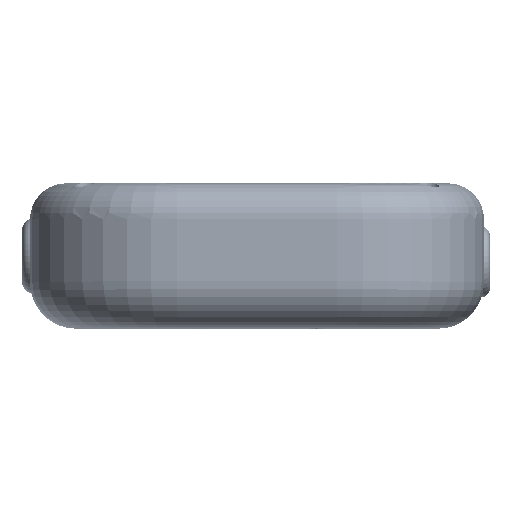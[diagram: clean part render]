
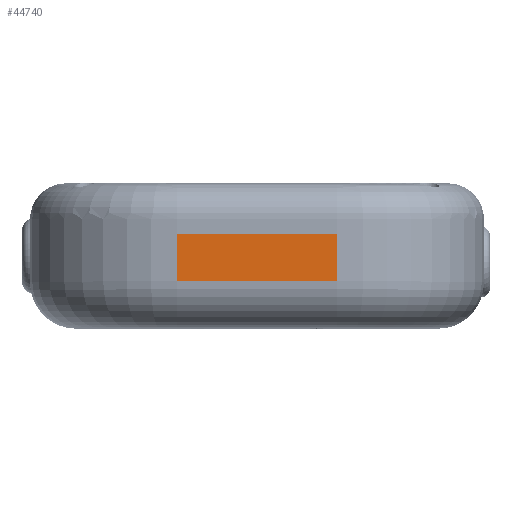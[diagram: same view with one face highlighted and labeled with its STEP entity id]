
A CAD part, top view. The second image highlights one B-rep face of the part: STEP entity #44740.
In plain terms, the highlighted planar face has unit normal (0, 0, 1).
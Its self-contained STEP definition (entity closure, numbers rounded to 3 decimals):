
#40124 = CYLINDRICAL_SURFACE('',#40125,9.2);
#40125 = AXIS2_PLACEMENT_3D('',#40126,#40127,#40128);
#40126 = CARTESIAN_POINT('',(16.,-5.2,67.));
#40127 = DIRECTION('',(-1.,-0.,-0.));
#40128 = DIRECTION('',(0.,-1.,0.));
#40701 = PLANE('',#40702);
#40702 = AXIS2_PLACEMENT_3D('',#40703,#40704,#40705);
#40703 = CARTESIAN_POINT('',(0.,4.2,0.));
#40704 = DIRECTION('',(0.,1.,0.));
#40705 = DIRECTION('',(0.,-0.,1.));
#40781 = CYLINDRICAL_SURFACE('',#40782,29.2);
#40782 = AXIS2_PLACEMENT_3D('',#40783,#40784,#40785);
#40783 = CARTESIAN_POINT('',(-16.,-14.4,47.));
#40784 = DIRECTION('',(0.,1.,0.));
#40785 = DIRECTION('',(-1.,0.,0.));
#40797 = VERTEX_POINT('',#40798);
#40798 = CARTESIAN_POINT('',(-16.,-5.2,76.2));
#42668 = VERTEX_POINT('',#42669);
#42669 = CARTESIAN_POINT('',(16.,-5.2,76.2));
#42684 = CYLINDRICAL_SURFACE('',#42685,29.2);
#42685 = AXIS2_PLACEMENT_3D('',#42686,#42687,#42688);
#42686 = CARTESIAN_POINT('',(16.,-14.4,47.));
#42687 = DIRECTION('',(0.,1.,0.));
#42688 = DIRECTION('',(1.,0.,-0.));
#42722 = EDGE_CURVE('',#42668,#40797,#42723,.T.);
#42723 = SURFACE_CURVE('',#42724,(#42728,#42735),.PCURVE_S1.);
#42724 = LINE('',#42725,#42726);
#42725 = CARTESIAN_POINT('',(16.,-5.2,76.2));
#42726 = VECTOR('',#42727,1.);
#42727 = DIRECTION('',(-1.,-0.,-0.));
#42728 = PCURVE('',#40124,#42729);
#42729 = DEFINITIONAL_REPRESENTATION('',(#42730),#42734);
#42730 = LINE('',#42731,#42732);
#42731 = CARTESIAN_POINT('',(1.571,0.));
#42732 = VECTOR('',#42733,1.);
#42733 = DIRECTION('',(0.,1.));
#42734 = ( GEOMETRIC_REPRESENTATION_CONTEXT(2) 
PARAMETRIC_REPRESENTATION_CONTEXT() REPRESENTATION_CONTEXT('2D SPACE',''
  ) );
#42735 = PCURVE('',#42736,#42741);
#42736 = PLANE('',#42737);
#42737 = AXIS2_PLACEMENT_3D('',#42738,#42739,#42740);
#42738 = CARTESIAN_POINT('',(-45.2,-14.4,76.2));
#42739 = DIRECTION('',(0.,0.,1.));
#42740 = DIRECTION('',(1.,0.,-0.));
#42741 = DEFINITIONAL_REPRESENTATION('',(#42742),#42746);
#42742 = LINE('',#42743,#42744);
#42743 = CARTESIAN_POINT('',(61.2,9.2));
#42744 = VECTOR('',#42745,1.);
#42745 = DIRECTION('',(-1.,0.));
#42746 = ( GEOMETRIC_REPRESENTATION_CONTEXT(2) 
PARAMETRIC_REPRESENTATION_CONTEXT() REPRESENTATION_CONTEXT('2D SPACE',''
  ) );
#43135 = VERTEX_POINT('',#43136);
#43136 = CARTESIAN_POINT('',(-16.,4.2,76.2));
#43158 = EDGE_CURVE('',#43159,#43135,#43161,.T.);
#43159 = VERTEX_POINT('',#43160);
#43160 = CARTESIAN_POINT('',(16.,4.2,76.2));
#43161 = SURFACE_CURVE('',#43162,(#43166,#43173),.PCURVE_S1.);
#43162 = LINE('',#43163,#43164);
#43163 = CARTESIAN_POINT('',(-22.6,4.2,76.2));
#43164 = VECTOR('',#43165,1.);
#43165 = DIRECTION('',(-1.,0.,0.));
#43166 = PCURVE('',#40701,#43167);
#43167 = DEFINITIONAL_REPRESENTATION('',(#43168),#43172);
#43168 = LINE('',#43169,#43170);
#43169 = CARTESIAN_POINT('',(76.2,-22.6));
#43170 = VECTOR('',#43171,1.);
#43171 = DIRECTION('',(0.,-1.));
#43172 = ( GEOMETRIC_REPRESENTATION_CONTEXT(2) 
PARAMETRIC_REPRESENTATION_CONTEXT() REPRESENTATION_CONTEXT('2D SPACE',''
  ) );
#43173 = PCURVE('',#42736,#43174);
#43174 = DEFINITIONAL_REPRESENTATION('',(#43175),#43179);
#43175 = LINE('',#43176,#43177);
#43176 = CARTESIAN_POINT('',(22.6,18.6));
#43177 = VECTOR('',#43178,1.);
#43178 = DIRECTION('',(-1.,0.));
#43179 = ( GEOMETRIC_REPRESENTATION_CONTEXT(2) 
PARAMETRIC_REPRESENTATION_CONTEXT() REPRESENTATION_CONTEXT('2D SPACE',''
  ) );
#43362 = EDGE_CURVE('',#40797,#43135,#43363,.T.);
#43363 = SURFACE_CURVE('',#43364,(#43368,#43375),.PCURVE_S1.);
#43364 = LINE('',#43365,#43366);
#43365 = CARTESIAN_POINT('',(-16.,-14.4,76.2));
#43366 = VECTOR('',#43367,1.);
#43367 = DIRECTION('',(0.,1.,0.));
#43368 = PCURVE('',#40781,#43369);
#43369 = DEFINITIONAL_REPRESENTATION('',(#43370),#43374);
#43370 = LINE('',#43371,#43372);
#43371 = CARTESIAN_POINT('',(1.571,0.));
#43372 = VECTOR('',#43373,1.);
#43373 = DIRECTION('',(0.,1.));
#43374 = ( GEOMETRIC_REPRESENTATION_CONTEXT(2) 
PARAMETRIC_REPRESENTATION_CONTEXT() REPRESENTATION_CONTEXT('2D SPACE',''
  ) );
#43375 = PCURVE('',#42736,#43376);
#43376 = DEFINITIONAL_REPRESENTATION('',(#43377),#43381);
#43377 = LINE('',#43378,#43379);
#43378 = CARTESIAN_POINT('',(29.2,0.));
#43379 = VECTOR('',#43380,1.);
#43380 = DIRECTION('',(0.,1.));
#43381 = ( GEOMETRIC_REPRESENTATION_CONTEXT(2) 
PARAMETRIC_REPRESENTATION_CONTEXT() REPRESENTATION_CONTEXT('2D SPACE',''
  ) );
#44718 = EDGE_CURVE('',#42668,#43159,#44719,.T.);
#44719 = SURFACE_CURVE('',#44720,(#44724,#44731),.PCURVE_S1.);
#44720 = LINE('',#44721,#44722);
#44721 = CARTESIAN_POINT('',(16.,-14.4,76.2));
#44722 = VECTOR('',#44723,1.);
#44723 = DIRECTION('',(0.,1.,0.));
#44724 = PCURVE('',#42684,#44725);
#44725 = DEFINITIONAL_REPRESENTATION('',(#44726),#44730);
#44726 = LINE('',#44727,#44728);
#44727 = CARTESIAN_POINT('',(4.712,0.));
#44728 = VECTOR('',#44729,1.);
#44729 = DIRECTION('',(-0.,1.));
#44730 = ( GEOMETRIC_REPRESENTATION_CONTEXT(2) 
PARAMETRIC_REPRESENTATION_CONTEXT() REPRESENTATION_CONTEXT('2D SPACE',''
  ) );
#44731 = PCURVE('',#42736,#44732);
#44732 = DEFINITIONAL_REPRESENTATION('',(#44733),#44737);
#44733 = LINE('',#44734,#44735);
#44734 = CARTESIAN_POINT('',(61.2,0.));
#44735 = VECTOR('',#44736,1.);
#44736 = DIRECTION('',(0.,1.));
#44737 = ( GEOMETRIC_REPRESENTATION_CONTEXT(2) 
PARAMETRIC_REPRESENTATION_CONTEXT() REPRESENTATION_CONTEXT('2D SPACE',''
  ) );
#44740 = ADVANCED_FACE('',(#44741),#42736,.T.);
#44741 = FACE_BOUND('',#44742,.T.);
#44742 = EDGE_LOOP('',(#44743,#44744,#44745,#44746));
#44743 = ORIENTED_EDGE('',*,*,#43362,.F.);
#44744 = ORIENTED_EDGE('',*,*,#42722,.F.);
#44745 = ORIENTED_EDGE('',*,*,#44718,.T.);
#44746 = ORIENTED_EDGE('',*,*,#43158,.T.);
